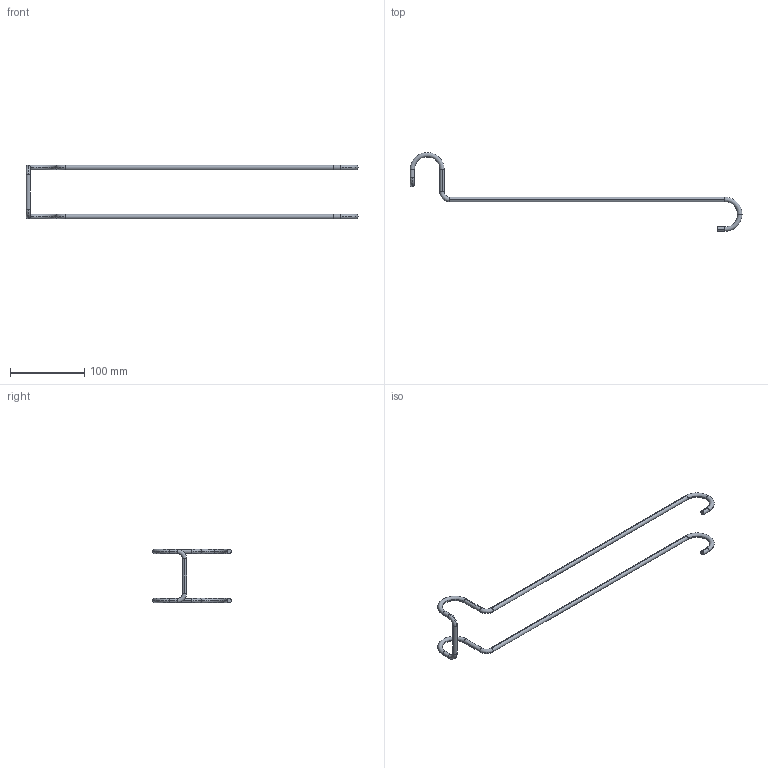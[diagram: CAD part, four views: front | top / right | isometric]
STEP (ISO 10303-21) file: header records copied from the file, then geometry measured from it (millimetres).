
FILE_DESCRIPTION (( 'STEP AP203' ), '1' );
FILE_NAME ('015.300.015.STEP', '2016-10-24T08:58:16', ( '' ), ( '' ), 'SwSTEP 2.0', 'SolidWorks 2016', '' );
FILE_SCHEMA (( 'CONFIG_CONTROL_DESIGN' ));
Length unit declared in the file: millimetre
Products named in the file (1): 015.300.015
Bounding box: 446 x 106 x 72 mm (x, y, z)
Volume: 33933.7 mm3; surface area: 22679 mm2
Topology: 1 solids, 1 shells, 38 faces, 98 edges, 62 vertices
Faces by surface type: torus 18, cylinder 18, plane 2
Entity records: 1279 total; most frequent: DIRECTION 256, CARTESIAN_POINT 199, ORIENTED_EDGE 196, AXIS2_PLACEMENT_3D 119, EDGE_CURVE 98, CIRCLE 80, VERTEX_POINT 62, FACE_OUTER_BOUND 38
